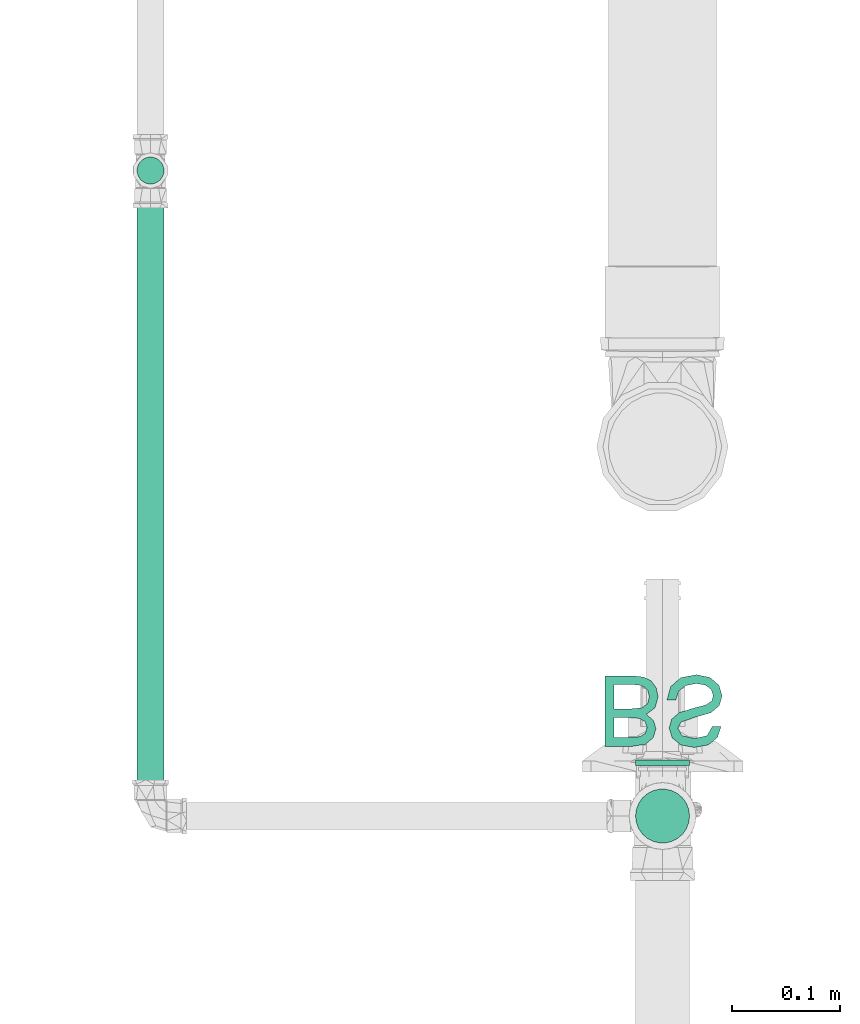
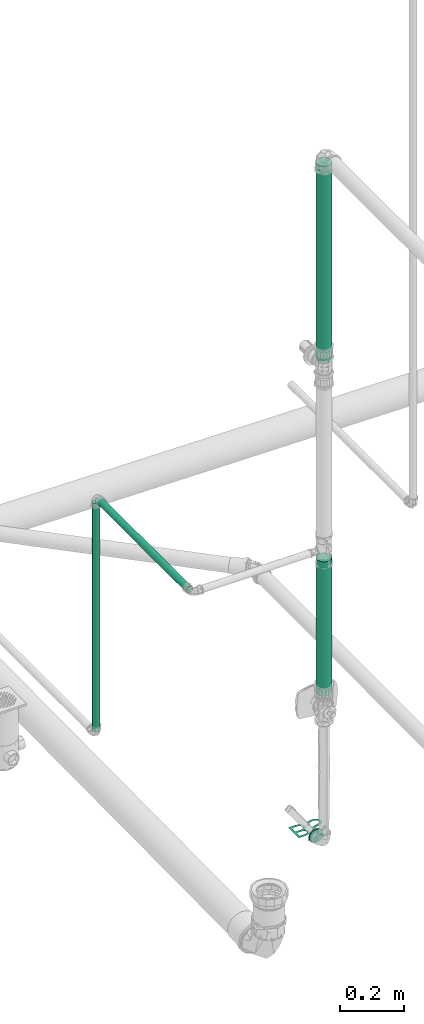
# One storey, part 209 of 589: 4 flow segments, 1 flow terminal.
"""IFC2X3 building model written with IfcOpenShell, lengths in millimetres."""

from ifc_helpers import new_model, entity, si_unit, converted_unit, derived_unit, direction, frame, frame_2d, origin, origin_2d_with_axis, place, context, subcontext, project, spatial, circle, extrude, face_set, surface_model, source, transform, mapped, material, type_object, type_shapes, element, save


model = new_model("IFC2X3")

# Units and contexts
model_context = context("Model", 3, precision=0.01, world=origin(), true_north=direction((6.123031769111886e-17, 1.0)))
body_context = subcontext(model_context, "Body", "Model", "MODEL_VIEW")
ifc_project = project(units=[si_unit("LENGTHUNIT", "METRE", prefix="MILLI"), si_unit("AREAUNIT", "SQUARE_METRE"), si_unit("VOLUMEUNIT", "CUBIC_METRE"), converted_unit("PLANEANGLEUNIT", "DEGREE", entity("IfcRatioMeasure", 0.017453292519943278), si_unit("PLANEANGLEUNIT", "RADIAN"), dimensions=[0, 0, 0, 0, 0, 0, 0]), si_unit("MASSUNIT", "GRAM", prefix="KILO"), derived_unit("MASSDENSITYUNIT", [(si_unit("MASSUNIT", "GRAM", prefix="KILO"), 1), (si_unit("LENGTHUNIT", "METRE"), -3)]), derived_unit("IONCONCENTRATIONUNIT", [(si_unit("MASSUNIT", "GRAM", prefix="KILO"), 1), (si_unit("LENGTHUNIT", "METRE"), -3)]), derived_unit("MOMENTOFINERTIAUNIT", [(si_unit("LENGTHUNIT", "METRE"), 4)]), si_unit("TIMEUNIT", "SECOND"), si_unit("FREQUENCYUNIT", "HERTZ"), si_unit("THERMODYNAMICTEMPERATUREUNIT", "DEGREE_CELSIUS"), derived_unit("THERMALTRANSMITTANCEUNIT", [(si_unit("MASSUNIT", "GRAM", prefix="KILO"), 1), (si_unit("THERMODYNAMICTEMPERATUREUNIT", "KELVIN"), -1), (si_unit("TIMEUNIT", "SECOND"), -3)]), derived_unit("THERMALCONDUCTANCEUNIT", [(si_unit("MASSUNIT", "GRAM", prefix="KILO"), 1), (si_unit("THERMODYNAMICTEMPERATUREUNIT", "KELVIN"), -1), (si_unit("TIMEUNIT", "SECOND"), -3), (si_unit("LENGTHUNIT", "METRE"), 1)]), derived_unit("VOLUMETRICFLOWRATEUNIT", [(si_unit("LENGTHUNIT", "METRE"), 3), (si_unit("TIMEUNIT", "SECOND"), -1)]), derived_unit("MASSFLOWRATEUNIT", [(si_unit("MASSUNIT", "GRAM", prefix="KILO"), 1), (si_unit("TIMEUNIT", "SECOND"), -1)]), derived_unit("ROTATIONALFREQUENCYUNIT", [(si_unit("TIMEUNIT", "SECOND"), -1)]), si_unit("ELECTRICCURRENTUNIT", "AMPERE"), si_unit("ELECTRICVOLTAGEUNIT", "VOLT"), si_unit("POWERUNIT", "WATT"), si_unit("FORCEUNIT", "NEWTON", prefix="KILO"), si_unit("ILLUMINANCEUNIT", "LUX"), si_unit("LUMINOUSFLUXUNIT", "LUMEN"), si_unit("LUMINOUSINTENSITYUNIT", "CANDELA"), derived_unit("USERDEFINED", [(si_unit("MASSUNIT", "GRAM", prefix="KILO"), -1), (si_unit("LENGTHUNIT", "METRE"), -2), (si_unit("TIMEUNIT", "SECOND"), 3), (si_unit("LUMINOUSFLUXUNIT", "LUMEN"), 1)]), derived_unit("USERDEFINED", [(si_unit("MASSUNIT", "GRAM", prefix="KILO"), 1), (si_unit("TIMEUNIT", "SECOND"), -3), (si_unit("LENGTHUNIT", "METRE"), 3), (si_unit("ELECTRICCURRENTUNIT", "AMPERE"), -2)]), derived_unit("SOUNDPOWERUNIT", [(si_unit("MASSUNIT", "GRAM", prefix="KILO"), 1), (si_unit("TIMEUNIT", "SECOND"), -3), (si_unit("LENGTHUNIT", "METRE"), 2)]), derived_unit("SOUNDPRESSUREUNIT", [(si_unit("MASSUNIT", "GRAM", prefix="KILO"), 1), (si_unit("LENGTHUNIT", "METRE"), -1), (si_unit("TIMEUNIT", "SECOND"), -2)]), derived_unit("LINEARVELOCITYUNIT", [(si_unit("LENGTHUNIT", "METRE"), 1), (si_unit("TIMEUNIT", "SECOND"), -1)]), si_unit("PRESSUREUNIT", "PASCAL"), derived_unit("USERDEFINED", [(si_unit("MASSUNIT", "GRAM", prefix="KILO"), 1), (si_unit("LENGTHUNIT", "METRE"), -2), (si_unit("TIMEUNIT", "SECOND"), -2)]), derived_unit("LINEARFORCEUNIT", [(si_unit("MASSUNIT", "GRAM", prefix="KILO"), 1), (si_unit("TIMEUNIT", "SECOND"), -2)]), derived_unit("PLANARFORCEUNIT", [(si_unit("MASSUNIT", "GRAM", prefix="KILO"), 1), (si_unit("LENGTHUNIT", "METRE"), -1), (si_unit("TIMEUNIT", "SECOND"), -2)]), derived_unit("SPECIFICHEATCAPACITYUNIT", [(si_unit("THERMODYNAMICTEMPERATUREUNIT", "KELVIN"), -1), (si_unit("LENGTHUNIT", "METRE"), 2), (si_unit("TIMEUNIT", "SECOND"), -2)]), derived_unit("HEATINGVALUEUNIT", [(si_unit("LENGTHUNIT", "METRE"), 2), (si_unit("TIMEUNIT", "SECOND"), -2)]), derived_unit("VAPORPERMEABILITYUNIT", [(si_unit("LENGTHUNIT", "METRE"), -1), (si_unit("TIMEUNIT", "SECOND"), 1)]), derived_unit("DYNAMICVISCOSITYUNIT", [(si_unit("MASSUNIT", "GRAM", prefix="KILO"), 1), (si_unit("TIMEUNIT", "SECOND"), -1), (si_unit("LENGTHUNIT", "METRE"), -1)]), derived_unit("THERMALEXPANSIONCOEFFICIENTUNIT", [(si_unit("THERMODYNAMICTEMPERATUREUNIT", "KELVIN"), -1)]), derived_unit("MODULUSOFELASTICITYUNIT", [(si_unit("MASSUNIT", "GRAM", prefix="KILO"), 1), (si_unit("LENGTHUNIT", "METRE"), -1), (si_unit("TIMEUNIT", "SECOND"), -2)]), derived_unit("ISOTHERMALMOISTURECAPACITYUNIT", [(si_unit("LENGTHUNIT", "METRE"), 3), (si_unit("MASSUNIT", "GRAM", prefix="KILO"), -1)]), derived_unit("MOISTUREDIFFUSIVITYUNIT", [(si_unit("TIMEUNIT", "SECOND"), -1), (si_unit("LENGTHUNIT", "METRE"), 2)])], contexts=[model_context])

# Site, building, storey
site_placement = place(None, origin())
site = spatial("IfcSite", under=ifc_project, at=site_placement, Name="Default", CompositionType="ELEMENT")
building_placement = place(site_placement, origin())
building = spatial("IfcBuilding", under=site, at=building_placement, CompositionType="ELEMENT")
storey_placement = place(building_placement, frame((0.0, 0.0, 100.0)))
storey = spatial("IfcBuildingStorey", under=building, at=storey_placement, Name="TÉRREO", CompositionType="ELEMENT", Elevation=100.0)

# Flow segments
pipe_segment_type = type_object("IfcPipeSegmentType", Name="Tipos de tubos:PVC Marrom Soldável", PredefinedType="NOTDEFINED")
flow_segment_1_placement = place(storey_placement, origin())
element("IfcFlowSegment", 1, at=flow_segment_1_placement, inside=storey, type_object=pipe_segment_type, Name="Tipos de tubos:PVC Marrom Soldável", ObjectType="Tipos de tubos:PVC Marrom Soldável", context=body_context, shape_type="SweptSolid", body=[
    extrude(circle(Radius=25.0, at=origin_2d_with_axis()), frame((10616.154026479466, -477.46117215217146, 955.7041463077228), z_axis=(0.0, 0.0, 1.0), x_axis=(-1.0, 0.0, 0.0)), (0.0, 0.0, 1.0), 511.6958244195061),
])
flow_segment_2_placement = place(storey_placement, origin())
element("IfcFlowSegment", 2, at=flow_segment_2_placement, inside=storey, type_object=pipe_segment_type, Name="Tipos de tubos:PVC Marrom Soldável", ObjectType="Tipos de tubos:PVC Marrom Soldável", context=body_context, shape_type="SweptSolid", body=[
    extrude(circle(Radius=12.5, at=origin_2d_with_axis()), frame((10142.425329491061, -462.0611721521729, 1500.0), z_axis=(0.0, 1.0, 0.0), x_axis=(1.0, 0.0, 0.0)), (0.0, 0.0, 1.0), 565.1999992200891),
])
flow_segment_3_placement = place(storey_placement, origin())
element("IfcFlowSegment", 3, at=flow_segment_3_placement, inside=storey, type_object=pipe_segment_type, Name="Tipos de tubos:PVC Marrom Soldável", ObjectType="Tipos de tubos:PVC Marrom Soldável", context=body_context, shape_type="SweptSolid", body=[
    extrude(circle(Radius=12.5, at=frame_2d((0.0, -1.6919798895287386e-14), x_axis=(1.0, 0.0))), frame((10142.425329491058, 119.7388278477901, 615.4000000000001), z_axis=(0.0, 0.0, 1.0), x_axis=(-1.0, 0.0, 0.0)), (0.0, 0.0, 1.0), 867.999999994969),
])
flow_segment_4_placement = place(storey_placement, origin())
element("IfcFlowSegment", 4, at=flow_segment_4_placement, inside=storey, type_object=pipe_segment_type, Name="Tipos de tubos:PVC Marrom Soldável", ObjectType="Tipos de tubos:PVC Marrom Soldável", context=body_context, shape_type="SweptSolid", body=[
    extrude(circle(Radius=25.0, at=origin_2d_with_axis()), frame((10616.154026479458, -477.46117215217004, 2221.5)), (0.0, 0.0, 1.0), 749.4000000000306),
])

# Flow terminal
ifc_material = material(Name="<Unnamed>")
distribution_element_type = type_object("IfcDistributionElementType", Name="Hidráulica_Ponto de Utilização_Uso Provável_Rodrigo MEP:Bacia Sanitária com Valvula de Descarga BS (Peso 32)", material=ifc_material)
shared_shape = source(origin(), body_context, "Body", "SurfaceModel", [
    surface_model("IfcFaceBasedSurfaceModel", [(0.0, 83.06704158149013, 26.59527223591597), (0.0, 17.77043998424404, 26.59527223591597), (24.916647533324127, 17.77043998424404, 26.59527223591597), (37.119906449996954, 19.691397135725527, 26.59527223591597), (44.32548846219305, 25.597742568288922, 26.59527223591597), (46.93193239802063, 33.951116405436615, 26.59527223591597), (44.73996884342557, 41.5791495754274, 26.59527223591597), (38.116253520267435, 47.35796258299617, 26.59527223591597), (46.158767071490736, 53.44763587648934, 26.59527223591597), (48.97245119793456, 63.60240521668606, 26.59527223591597), (47.05149404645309, 72.37823021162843, 26.59527223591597), (42.29294043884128, 78.62731903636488, 26.59527223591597), (35.19097852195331, 81.94316208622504, 26.59527223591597), (24.7253488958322, 83.06704158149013, 26.59527223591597), (8.162075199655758, 74.90496638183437, 26.59527223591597), (24.900705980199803, 74.90496638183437, 26.59527223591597), (30.958496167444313, 74.58613531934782, 26.59527223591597), (36.08370549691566, 72.80865214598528, 26.59527223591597), (39.47925631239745, 69.18194881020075, 26.59527223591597), (40.81037599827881, 63.68211298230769, 26.59527223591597), (39.24810379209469, 57.33737483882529, 26.59527223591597), (34.18666067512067, 53.55125597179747, 26.59527223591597), (24.103628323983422, 52.45925958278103, 26.59527223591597), (8.162075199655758, 52.45925958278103, 26.59527223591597), (8.162075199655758, 44.29718438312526, 26.59527223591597), (23.06742737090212, 44.29718438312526, 26.59527223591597), (31.77151537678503, 43.59575604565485, 26.59527223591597), (37.008315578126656, 40.57483172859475, 26.59527223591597), (38.76985719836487, 35.25832376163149, 26.59527223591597), (37.12787722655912, 29.933845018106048, 26.59527223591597), (32.42511905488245, 26.785388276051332, 26.59527223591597), (21.93557709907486, 25.9325151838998, 26.59527223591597), (8.162075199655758, 25.9325151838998, 26.59527223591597), (57.13452639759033, 60.62133478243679, 26.59527223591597), (65.2966015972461, 60.62133478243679, 26.59527223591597), (67.92695786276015, 68.79138075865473, 26.59527223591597), (74.35140377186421, 73.95644397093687, 26.59527223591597), (84.13951739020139, 75.92522578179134, 26.59527223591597), (92.66824831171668, 74.43469056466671, 26.59527223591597), (98.17605491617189, 70.3377114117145, 26.59527223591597), (99.98542119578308, 64.86178791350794, 26.59527223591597), (98.63038918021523, 59.76846169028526, 26.59527223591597), (93.0827286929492, 56.062050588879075, 26.59527223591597), (81.19830083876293, 52.94547695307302, 26.59527223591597), (68.40520445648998, 48.92023478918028, 26.59527223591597), (61.462658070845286, 42.84650304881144, 26.59527223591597), (59.175045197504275, 34.73225250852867, 26.59527223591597), (62.004670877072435, 25.494122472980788, 26.59527223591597), (70.27036617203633, 18.974027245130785, 26.59527223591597), (82.37000499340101, 16.750180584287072, 26.59527223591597), (95.28266302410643, 19.077647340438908, 26.59527223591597), (103.89110171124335, 25.916573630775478, 26.59527223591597), (107.12723699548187, 36.1351091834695, 26.59527223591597), (98.9651617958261, 36.1351091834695, 26.59527223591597), (94.34211138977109, 27.74985224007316, 26.59527223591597), (82.68883605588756, 24.912255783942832, 26.59527223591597), (71.0036776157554, 27.717969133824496, 26.59527223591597), (67.33712039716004, 34.49312921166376, 26.59527223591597), (69.93559355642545, 40.15238057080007, 26.59527223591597), (83.26273196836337, 44.711664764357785, 26.59527223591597), (97.70577909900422, 48.80864391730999, 26.59527223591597), (105.60481867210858, 55.42438846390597, 26.59527223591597), (108.14749639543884, 64.65454772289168, 26.59527223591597), (105.22222139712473, 74.41874901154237, 26.59527223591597), (96.80508134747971, 81.54462325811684, 26.59527223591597), (84.45834845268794, 84.0873009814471, 26.59527223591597), (69.8797981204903, 81.34535384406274, 26.59527223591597), (60.65760963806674, 73.08762932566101, 26.59527223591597), (28.053488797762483, 5.0, 26.59527223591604), (28.9053431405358, 5.0, 33.065748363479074), (31.40285370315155, 5.0, 39.095272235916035), (35.375819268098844, 5.0, 44.27294176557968), (40.553488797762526, 5.0, 48.24590733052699), (46.58301267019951, 5.0, 50.74341789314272), (53.05348879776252, 5.0, 51.59527223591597), (59.52396492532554, 5.0, 50.74341789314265), (65.55348879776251, 5.0, 48.245907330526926), (70.73115832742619, 5.0, 44.27294176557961), (74.70412389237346, 5.0, 39.09527223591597), (77.20163445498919, 5.0, 33.065748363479), (78.0534887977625, 5.0, 26.59527223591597), (77.20163445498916, 5.0, 20.124796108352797), (74.70412389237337, 5.0, 14.095272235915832), (70.73115832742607, 5.0, 8.91760270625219), (65.55348879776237, 5.0, 4.944637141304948), (59.52396492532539, 5.0, 2.447126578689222), (53.05348879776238, 5.0, 1.5952722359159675), (46.58301267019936, 5.0, 2.4471265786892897), (40.5534887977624, 5.0, 4.94463714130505), (35.37581926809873, 5.0, 8.91760270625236), (31.402853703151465, 5.0, 14.095272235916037), (28.905343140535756, 5.0, 20.124796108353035), (28.053488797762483, 0.0, 26.59527223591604), (28.905343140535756, 0.0, 20.124796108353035), (31.402853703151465, 0.0, 14.095272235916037), (35.37581926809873, 0.0, 8.91760270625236), (40.5534887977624, 0.0, 4.94463714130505), (46.58301267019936, 0.0, 2.4471265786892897), (53.05348879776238, 0.0, 1.5952722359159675), (59.52396492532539, 0.0, 2.447126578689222), (65.55348879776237, 0.0, 4.944637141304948), (70.73115832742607, 0.0, 8.91760270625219), (74.70412389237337, 0.0, 14.095272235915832), (77.20163445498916, 0.0, 20.124796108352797), (78.0534887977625, 0.0, 26.595272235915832), (77.20163445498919, 0.0, 33.065748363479), (74.70412389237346, 0.0, 39.09527223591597), (70.73115832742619, 0.0, 44.27294176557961), (65.55348879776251, 0.0, 48.245907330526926), (59.52396492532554, 0.0, 50.74341789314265), (53.05348879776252, 0.0, 51.59527223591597), (46.58301267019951, 0.0, 50.74341789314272), (40.553488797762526, 0.0, 48.24590733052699), (35.375819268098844, 0.0, 44.27294176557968), (31.40285370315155, 0.0, 39.095272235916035), (28.9053431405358, 0.0, 33.065748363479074)], [face_set([[[0, 1, 2, 3, 4, 5, 6, 7, 8, 9, 10, 11, 12, 13], [14, 15, 16, 17, 18, 19, 20, 21, 22, 23], [24, 25, 26, 27, 28, 29, 30, 31, 32]], [[33, 34, 35, 36, 37, 38, 39, 40, 41, 42, 43, 44, 45, 46, 47, 48, 49, 50, 51, 52, 53, 54, 55, 56, 57, 58, 59, 60, 61, 62, 63, 64, 65, 66, 67]]]), face_set([[[68, 69, 70, 71, 72, 73, 74, 75, 76, 77, 78, 79, 80, 81, 82, 83, 84, 85, 86, 87, 88, 89, 90, 91]], [[92, 93, 94, 95, 96, 97, 98, 99, 100, 101, 102, 103, 104, 105, 106, 107, 108, 109, 110, 111, 112, 113, 114, 115]], [[91, 93, 92, 68]], [[90, 94, 93, 91]], [[88, 96, 95, 89]], [[89, 95, 94, 90]], [[87, 97, 96, 88]], [[97, 87, 86, 98]], [[85, 99, 98, 86]], [[84, 100, 99, 85]], [[82, 102, 101, 83]], [[83, 101, 100, 84]], [[81, 103, 102, 82]], [[103, 81, 80, 104]], [[79, 105, 104, 80]], [[78, 106, 105, 79]], [[76, 108, 107, 77]], [[77, 107, 106, 78]], [[75, 109, 108, 76]], [[109, 75, 74, 110]], [[73, 111, 110, 74]], [[72, 112, 111, 73]], [[70, 114, 113, 71]], [[71, 113, 112, 72]], [[69, 115, 114, 70]], [[115, 69, 68, 92]]])]),
])
type_shapes(distribution_element_type, [shared_shape])
flow_terminal_placement = place(storey_placement, frame((10563.100537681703, -430.7585524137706, 353.404727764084)))
element("IfcFlowTerminal", 5, at=flow_terminal_placement, inside=storey, type_object=distribution_element_type, material=ifc_material, Name="Hidráulica_Ponto de Utilização_Uso Provável_Rodrigo MEP:Bacia Sanitária com Valvula de Descarga BS (Peso 32)", ObjectType="Hidráulica_Ponto de Utilização_Uso Provável_Rodrigo MEP:Bacia Sanitária com Valvula de Descarga BS (Peso 32)", context=body_context, shape_type="MappedRepresentation", body=[
    mapped(shared_shape, transform((0.0, 0.0, 0.0), scale=1.0)),
])

save(model, "model.ifc")
